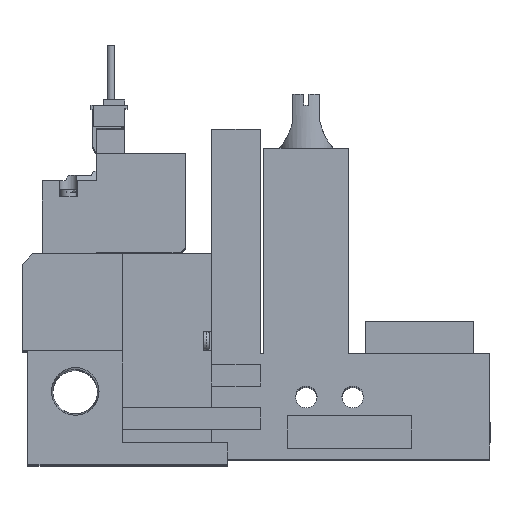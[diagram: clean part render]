
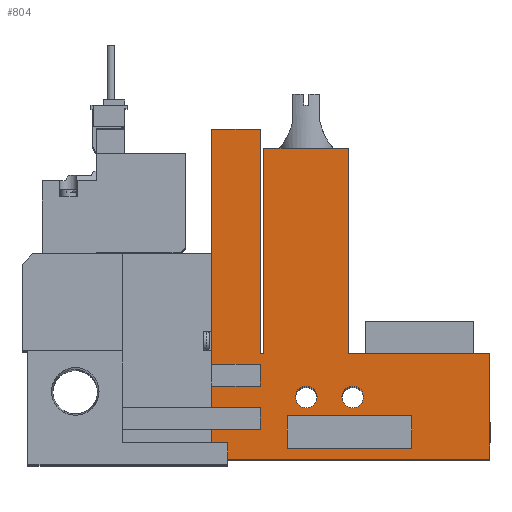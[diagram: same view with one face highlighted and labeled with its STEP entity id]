
A CAD part, top view. The second image highlights one B-rep face of the part: STEP entity #804.
In plain terms, the highlighted planar face has unit normal (0, 0, 1).
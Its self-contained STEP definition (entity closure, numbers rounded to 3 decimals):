
#804=ADVANCED_FACE('',(#1517,#1518,#1519,#1520),#1521,.T.);
#1517=FACE_OUTER_BOUND('',#2615,.T.);
#1518=FACE_BOUND('',#2616,.T.);
#1519=FACE_BOUND('',#2617,.T.);
#1520=FACE_BOUND('',#2618,.T.);
#1521=PLANE('',#2619);
#2615=EDGE_LOOP('',(#5153,#5154,#5155,#5156,#5157,#5158,#5159,#5160,#5161,#5162,#5163,#5164,#5165,#5166,#5167,#5168,#5169,#5170));
#2616=EDGE_LOOP('',(#5171,#5172,#5173,#5174));
#2617=EDGE_LOOP('',(#5175));
#2618=EDGE_LOOP('',(#5176));
#2619=AXIS2_PLACEMENT_3D('',#5177,#5178,#5179);
#5153=ORIENTED_EDGE('',*,*,#7436,.T.);
#5154=ORIENTED_EDGE('',*,*,#7437,.T.);
#5155=ORIENTED_EDGE('',*,*,#7438,.T.);
#5156=ORIENTED_EDGE('',*,*,#7439,.T.);
#5157=ORIENTED_EDGE('',*,*,#7440,.T.);
#5158=ORIENTED_EDGE('',*,*,#7441,.T.);
#5159=ORIENTED_EDGE('',*,*,#7442,.T.);
#5160=ORIENTED_EDGE('',*,*,#7443,.T.);
#5161=ORIENTED_EDGE('',*,*,#7444,.T.);
#5162=ORIENTED_EDGE('',*,*,#7445,.T.);
#5163=ORIENTED_EDGE('',*,*,#7446,.T.);
#5164=ORIENTED_EDGE('',*,*,#7447,.T.);
#5165=ORIENTED_EDGE('',*,*,#7448,.T.);
#5166=ORIENTED_EDGE('',*,*,#7449,.T.);
#5167=ORIENTED_EDGE('',*,*,#7450,.T.);
#5168=ORIENTED_EDGE('',*,*,#7451,.T.);
#5169=ORIENTED_EDGE('',*,*,#7452,.T.);
#5170=ORIENTED_EDGE('',*,*,#7453,.T.);
#5171=ORIENTED_EDGE('',*,*,#7454,.T.);
#5172=ORIENTED_EDGE('',*,*,#7455,.T.);
#5173=ORIENTED_EDGE('',*,*,#7456,.T.);
#5174=ORIENTED_EDGE('',*,*,#7457,.T.);
#5175=ORIENTED_EDGE('',*,*,#7458,.T.);
#5176=ORIENTED_EDGE('',*,*,#7459,.T.);
#5177=CARTESIAN_POINT('',(0.0,0.0,10.0));
#5178=DIRECTION('',(0.0,0.0,1.0));
#5179=DIRECTION('',(1.0,0.0,0.0));
#7436=EDGE_CURVE('',#8977,#8978,#8979,.T.);
#7437=EDGE_CURVE('',#8978,#8980,#8981,.T.);
#7438=EDGE_CURVE('',#8980,#8982,#8983,.T.);
#7439=EDGE_CURVE('',#8982,#8984,#8985,.T.);
#7440=EDGE_CURVE('',#8984,#8986,#8987,.T.);
#7441=EDGE_CURVE('',#8986,#8988,#8989,.T.);
#7442=EDGE_CURVE('',#8988,#8990,#8991,.T.);
#7443=EDGE_CURVE('',#8990,#8992,#8993,.T.);
#7444=EDGE_CURVE('',#8992,#8994,#8995,.T.);
#7445=EDGE_CURVE('',#8994,#8996,#8997,.T.);
#7446=EDGE_CURVE('',#8996,#8998,#8999,.T.);
#7447=EDGE_CURVE('',#8998,#9000,#9001,.T.);
#7448=EDGE_CURVE('',#9000,#9002,#9003,.T.);
#7449=EDGE_CURVE('',#9002,#9004,#9005,.T.);
#7450=EDGE_CURVE('',#9004,#9006,#9007,.T.);
#7451=EDGE_CURVE('',#9006,#9008,#9009,.T.);
#7452=EDGE_CURVE('',#9008,#9010,#9011,.T.);
#7453=EDGE_CURVE('',#9010,#8977,#9012,.T.);
#7454=EDGE_CURVE('',#9013,#9014,#9015,.T.);
#7455=EDGE_CURVE('',#9014,#9016,#9017,.T.);
#7456=EDGE_CURVE('',#9016,#9018,#9019,.T.);
#7457=EDGE_CURVE('',#9018,#9013,#9020,.T.);
#7458=EDGE_CURVE('',#9021,#9021,#9022,.T.);
#7459=EDGE_CURVE('',#9023,#9023,#9024,.T.);
#8977=VERTEX_POINT('',#11476);
#8978=VERTEX_POINT('',#11477);
#8979=LINE('',#11478,#11479);
#8980=VERTEX_POINT('',#11480);
#8981=LINE('',#11481,#11482);
#8982=VERTEX_POINT('',#11483);
#8983=LINE('',#11484,#11485);
#8984=VERTEX_POINT('',#11486);
#8985=LINE('',#11487,#11488);
#8986=VERTEX_POINT('',#11489);
#8987=LINE('',#11490,#11491);
#8988=VERTEX_POINT('',#11492);
#8989=LINE('',#11493,#11494);
#8990=VERTEX_POINT('',#11495);
#8991=LINE('',#11496,#11497);
#8992=VERTEX_POINT('',#11498);
#8993=LINE('',#11499,#11500);
#8994=VERTEX_POINT('',#11501);
#8995=LINE('',#11502,#11503);
#8996=VERTEX_POINT('',#11504);
#8997=LINE('',#11505,#11506);
#8998=VERTEX_POINT('',#11507);
#8999=LINE('',#11508,#11509);
#9000=VERTEX_POINT('',#11510);
#9001=LINE('',#11511,#11512);
#9002=VERTEX_POINT('',#11513);
#9003=LINE('',#11514,#11515);
#9004=VERTEX_POINT('',#11516);
#9005=LINE('',#11517,#11518);
#9006=VERTEX_POINT('',#11519);
#9007=LINE('',#11520,#11521);
#9008=VERTEX_POINT('',#11522);
#9009=LINE('',#11523,#11524);
#9010=VERTEX_POINT('',#11525);
#9011=LINE('',#11526,#11527);
#9012=LINE('',#11528,#11529);
#9013=VERTEX_POINT('',#11530);
#9014=VERTEX_POINT('',#11531);
#9015=LINE('',#11532,#11533);
#9016=VERTEX_POINT('',#11534);
#9017=LINE('',#11535,#11536);
#9018=VERTEX_POINT('',#11537);
#9019=LINE('',#11538,#11539);
#9020=LINE('',#11540,#11541);
#9021=VERTEX_POINT('',#11542);
#9022=CIRCLE('',#11543,2.0);
#9023=VERTEX_POINT('',#11544);
#9024=CIRCLE('',#11545,2.0);
#11476=CARTESIAN_POINT('',(35.1,61.0,10.0));
#11477=CARTESIAN_POINT('',(35.1,17.5,10.0));
#11478=CARTESIAN_POINT('',(35.1,61.0,10.0));
#11479=VECTOR('',#13621,1.0);
#11480=CARTESIAN_POINT('',(44.1,17.5,10.0));
#11481=CARTESIAN_POINT('',(0.0,17.5,10.0));
#11482=VECTOR('',#13622,1.0);
#11483=CARTESIAN_POINT('',(44.1,13.5,10.0));
#11484=CARTESIAN_POINT('',(44.1,0.0,10.0));
#11485=VECTOR('',#13623,1.0);
#11486=CARTESIAN_POINT('',(35.1,13.5,10.0));
#11487=CARTESIAN_POINT('',(0.0,13.5,10.0));
#11488=VECTOR('',#13624,1.0);
#11489=CARTESIAN_POINT('',(35.1,9.5,10.0));
#11490=CARTESIAN_POINT('',(35.1,0.0,10.0));
#11491=VECTOR('',#13625,1.0);
#11492=CARTESIAN_POINT('',(44.1,9.5,10.0));
#11493=CARTESIAN_POINT('',(0.0,9.5,10.0));
#11494=VECTOR('',#13626,1.0);
#11495=CARTESIAN_POINT('',(44.1,5.5,10.0));
#11496=CARTESIAN_POINT('',(44.1,0.0,10.0));
#11497=VECTOR('',#13627,1.0);
#11498=CARTESIAN_POINT('',(35.1,5.5,10.0));
#11499=CARTESIAN_POINT('',(0.0,5.5,10.0));
#11500=VECTOR('',#13628,1.0);
#11501=CARTESIAN_POINT('',(35.1,0.0,10.0));
#11502=CARTESIAN_POINT('',(35.1,0.0,10.0));
#11503=VECTOR('',#13629,1.0);
#11504=CARTESIAN_POINT('',(86.6,0.0,10.0));
#11505=CARTESIAN_POINT('',(18.6,0.0,10.0));
#11506=VECTOR('',#13630,1.0);
#11507=CARTESIAN_POINT('',(86.6,19.5,10.0));
#11508=CARTESIAN_POINT('',(86.6,0.0,10.0));
#11509=VECTOR('',#13631,1.0);
#11510=CARTESIAN_POINT('',(60.45,19.5,10.0));
#11511=CARTESIAN_POINT('',(86.6,19.5,10.0));
#11512=VECTOR('',#13632,1.0);
#11513=CARTESIAN_POINT('',(60.45,57.5,10.0));
#11514=CARTESIAN_POINT('',(60.45,19.5,10.0));
#11515=VECTOR('',#13633,1.0);
#11516=CARTESIAN_POINT('',(44.75,57.5,10.0));
#11517=CARTESIAN_POINT('',(60.45,57.5,10.0));
#11518=VECTOR('',#13634,1.0);
#11519=CARTESIAN_POINT('',(44.75,19.5,10.0));
#11520=CARTESIAN_POINT('',(44.75,57.5,10.0));
#11521=VECTOR('',#13635,1.0);
#11522=CARTESIAN_POINT('',(44.1,19.5,10.0));
#11523=CARTESIAN_POINT('',(44.75,19.5,10.0));
#11524=VECTOR('',#13636,1.0);
#11525=CARTESIAN_POINT('',(44.1,61.0,10.0));
#11526=CARTESIAN_POINT('',(44.1,19.5,10.0));
#11527=VECTOR('',#13637,1.0);
#11528=CARTESIAN_POINT('',(44.1,61.0,10.0));
#11529=VECTOR('',#13638,1.0);
#11530=CARTESIAN_POINT('',(49.1,2.0,10.0));
#11531=CARTESIAN_POINT('',(49.1,8.0,10.0));
#11532=CARTESIAN_POINT('',(49.1,0.0,10.0));
#11533=VECTOR('',#13639,1.0);
#11534=CARTESIAN_POINT('',(72.1,8.0,10.0));
#11535=CARTESIAN_POINT('',(0.0,8.0,10.0));
#11536=VECTOR('',#13640,1.0);
#11537=CARTESIAN_POINT('',(72.1,2.0,10.0));
#11538=CARTESIAN_POINT('',(72.1,0.0,10.0));
#11539=VECTOR('',#13641,1.0);
#11540=CARTESIAN_POINT('',(0.0,2.0,10.0));
#11541=VECTOR('',#13642,1.0);
#11542=CARTESIAN_POINT('',(54.6,11.5,10.0));
#11543=AXIS2_PLACEMENT_3D('',#13643,#13644,#13645);
#11544=CARTESIAN_POINT('',(63.2,11.5,10.0));
#11545=AXIS2_PLACEMENT_3D('',#13646,#13647,#13648);
#13621=DIRECTION('',(0.0,-1.0,0.0));
#13622=DIRECTION('',(1.0,0.0,0.0));
#13623=DIRECTION('',(0.0,-1.0,0.0));
#13624=DIRECTION('',(-1.0,0.0,0.0));
#13625=DIRECTION('',(0.0,-1.0,0.0));
#13626=DIRECTION('',(1.0,0.0,0.0));
#13627=DIRECTION('',(0.0,-1.0,0.0));
#13628=DIRECTION('',(-1.0,0.0,0.0));
#13629=DIRECTION('',(0.0,-1.0,0.0));
#13630=DIRECTION('',(1.0,0.0,0.0));
#13631=DIRECTION('',(0.0,1.0,0.0));
#13632=DIRECTION('',(-1.0,0.0,0.0));
#13633=DIRECTION('',(0.0,1.0,0.0));
#13634=DIRECTION('',(-1.0,0.0,0.0));
#13635=DIRECTION('',(0.0,-1.0,0.0));
#13636=DIRECTION('',(-1.0,0.0,0.0));
#13637=DIRECTION('',(0.0,1.0,0.0));
#13638=DIRECTION('',(-1.0,0.0,0.0));
#13639=DIRECTION('',(0.0,1.0,0.0));
#13640=DIRECTION('',(1.0,0.0,0.0));
#13641=DIRECTION('',(0.0,-1.0,0.0));
#13642=DIRECTION('',(-1.0,0.0,0.0));
#13643=CARTESIAN_POINT('',(52.6,11.5,10.0));
#13644=DIRECTION('',(0.0,0.0,-1.0));
#13645=DIRECTION('',(1.0,0.0,0.0));
#13646=CARTESIAN_POINT('',(61.2,11.5,10.0));
#13647=DIRECTION('',(0.0,0.0,-1.0));
#13648=DIRECTION('',(1.0,0.0,0.0));
